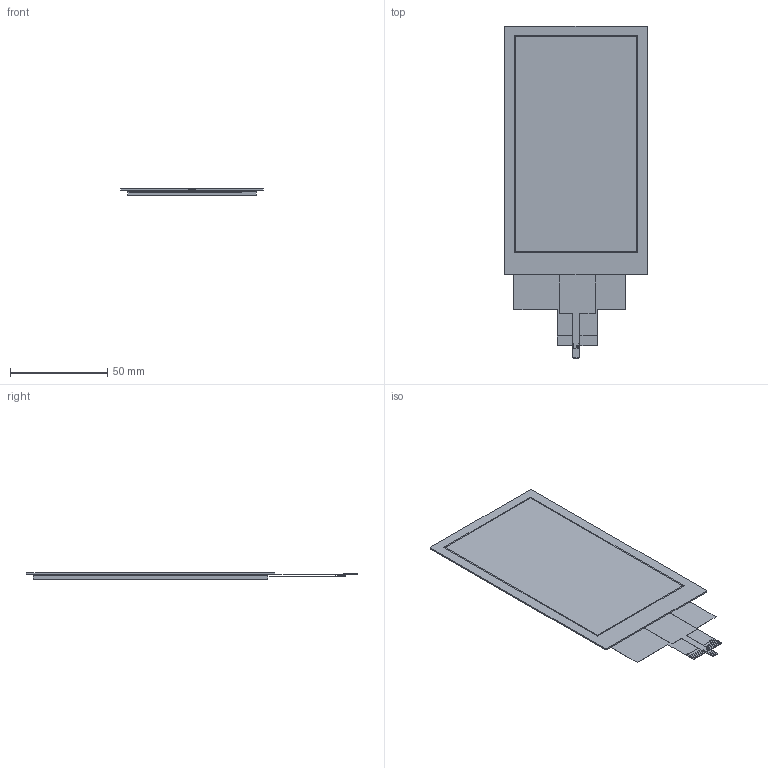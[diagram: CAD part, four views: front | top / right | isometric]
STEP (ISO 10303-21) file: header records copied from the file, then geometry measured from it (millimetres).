
FILE_DESCRIPTION (( 'STEP AP214' ), '1' );
FILE_NAME ('CFAF7201280A0-050TC.STEP', '2023-03-08T22:19:06', ( '' ), ( '' ), 'SwSTEP 2.0', 'SolidWorks 2021', '' );
FILE_SCHEMA (( 'AUTOMOTIVE_DESIGN' ));
Length unit declared in the file: millimetre
Products named in the file (1): CFAF7201280A0-050TC
Bounding box: 73.3 x 170.3 x 3.45 mm (x, y, z)
Volume: 22263.4 mm3; surface area: 40739 mm2
Topology: 46 solids, 46 shells, 385 faces, 864 edges, 576 vertices
Faces by surface type: plane 363, bspline 18, cylinder 4
Entity records: 15336 total; most frequent: CARTESIAN_POINT 3164, ORIENTED_EDGE 1728, DIRECTION 1572, EDGE_CURVE 864, VECTOR 820, LINE 820, VERTEX_POINT 576, EDGE_LOOP 400
